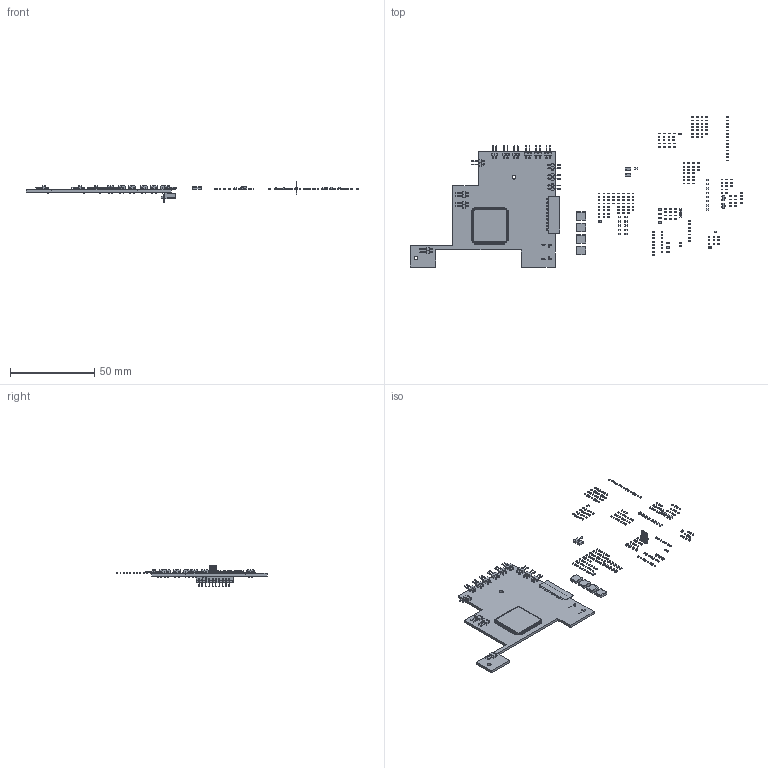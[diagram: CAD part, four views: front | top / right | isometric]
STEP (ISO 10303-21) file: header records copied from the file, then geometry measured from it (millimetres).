
FILE_DESCRIPTION(('KiCad electronic assembly'),'2;1');
FILE_NAME('Gonk.step','2023-06-25T14:53:42',('Pcbnew'),('Kicad'), 'Open CASCADE STEP processor 7.6','KiCad to STEP converter','Unknown' );
FILE_SCHEMA(('AUTOMOTIVE_DESIGN { 1 0 10303 214 1 1 1 1 }'));
Length unit declared in the file: millimetre
Products named in the file (32): Gonk 1; C_0402_1005Metric; SOLID; R_0402_1005Metric; PinHeader_1x02_P2.00mm_Horizontal; R_0603_1608Metric; C_1206_3216Metric; C_0603_1608Metric; LED_0603_1608Metric; L_0603_1608Metric; L_Sunlord_MWSA0518S; COMPOUND; SOT-23; D_SOD-523; R_0805_2012Metric; c-1-292250-0-a-3d; TQFP-144_20x20mm_P0.5mm; PinHeader_1x05_P1.00mm_Vertical; Gonk PCB
Assembly tree (280 placements, depth 3):
  Gonk 1
    C_0402_1005Metric  x101
      SOLID
    R_0402_1005Metric  x109
      SOLID
    PinHeader_1x02_P2.00mm_Horizontal  x13
      SOLID
    R_0603_1608Metric  x9
      SOLID
    C_1206_3216Metric  x2
      SOLID
    C_0603_1608Metric  x10
      SOLID
    LED_0603_1608Metric  x8
      SOLID
    L_0603_1608Metric
      SOLID
    L_Sunlord_MWSA0518S  x4
      COMPOUND
    SOT-23  x2
      SOLID
    D_SOD-523
      SOLID
    R_0805_2012Metric
      SOLID
    c-1-292250-0-a-3d
      SOLID
    TQFP-144_20x20mm_P0.5mm
      SOLID
    PinHeader_1x05_P1.00mm_Vertical
      SOLID
    Gonk PCB
Bounding box: 197.43 x 89.54 x 12.8 mm (x, y, z)
Volume: 7045.6 mm3; surface area: 12281.6 mm2
Topology: 273 solids, 273 shells, 10584 faces, 27576 edges, 17798 vertices
Faces by surface type: plane 7139, cylinder 3145, bspline 274, sphere 16, torus 10
Full cylindrical faces by diameter (mm): 0.5 x1, 0.6 x1, 0.787 x10, 0.8 x26, 2.2 x2
Entity records: 249751 total; most frequent: CARTESIAN_POINT 55509, DIRECTION 32599, LINE 22061, VECTOR 22061, ORIENTED_EDGE 17338, PCURVE 17338, DEFINITIONAL_REPRESENTATION 17338, EDGE_CURVE 8669
